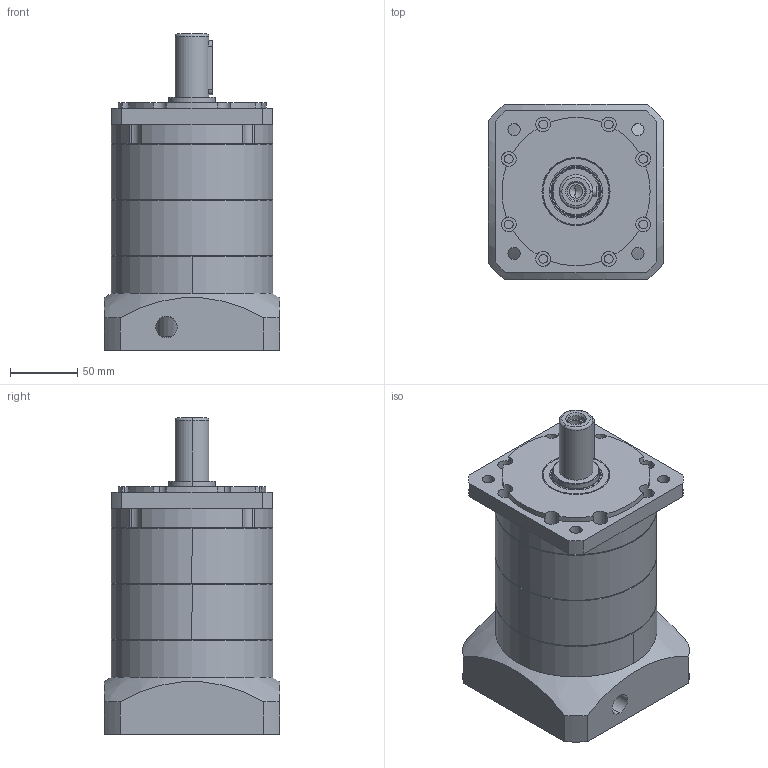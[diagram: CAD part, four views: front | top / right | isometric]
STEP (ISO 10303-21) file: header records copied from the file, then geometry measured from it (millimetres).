
FILE_DESCRIPTION (( 'STEP AP203' ), '1' );
FILE_NAME ('PAW120-L2-22-110-145.STEP', '2024-06-24T06:32:16', ( 'Windows User' ), ( 'P R C' ), 'SwSTEP 2.0', 'SolidWorks 2016', '' );
FILE_SCHEMA (( 'CONFIG_CONTROL_DESIGN' ));
Length unit declared in the file: millimetre
Products named in the file (9): PAW120-薊粣ん_LZ03; TC35-50-8_TC-34.9-55-7; 内六角圆柱头螺钉M8×25; 深沟球轴承 ZC6009ZZ; 邧埴瑩 8x7x40; PAW120-L2-22-110-145; PAW120-奻裔啣; PAW120-内齿圈; PAW120-帣釱
Assembly tree (9 placements, depth 2):
  PAW120-L2-22-110-145
    PAW120-奻裔啣
    PAW120-内齿圈  x2
    PAW120-帣釱
    PAW120-薊粣ん_LZ03
    TC35-50-8_TC-34.9-55-7
    内六角圆柱头螺钉M8×25
    深沟球轴承 ZC6009ZZ
    邧埴瑩 8x7x40
Bounding box: 130 x 130 x 234.5 mm (x, y, z)
Volume: 2011925.3 mm3; surface area: 273603.3 mm2
Topology: 9 solids, 9 shells, 539 faces, 1468 edges, 937 vertices
Faces by surface type: cylinder 190, plane 122, sphere 84, cone 79, torus 64
Entity records: 22319 total; most frequent: CARTESIAN_POINT 8165, DIRECTION 2864, ORIENTED_EDGE 2770, EDGE_CURVE 1385, AXIS2_PLACEMENT_3D 1258, VERTEX_POINT 891, CIRCLE 725, EDGE_LOOP 616
